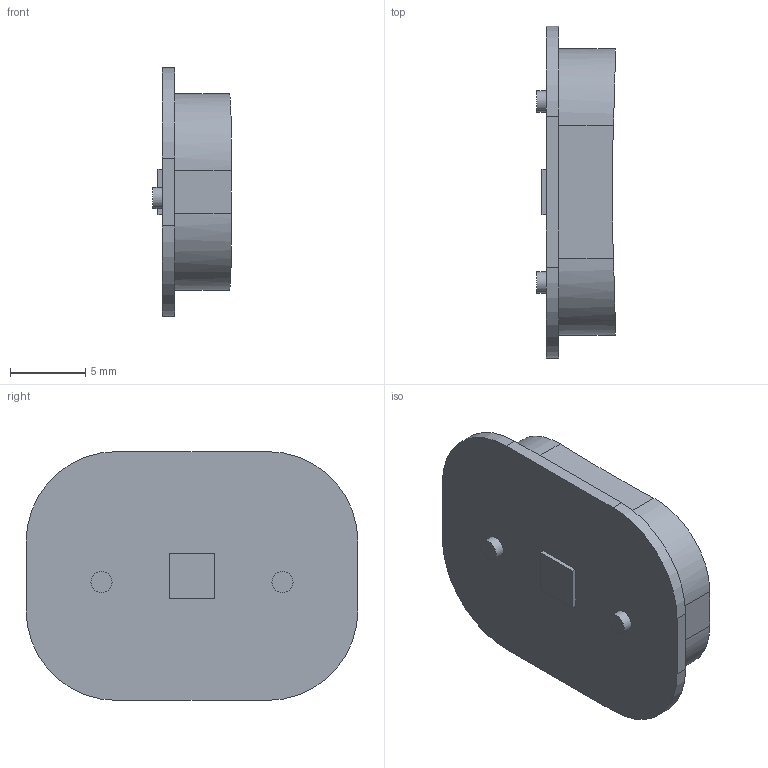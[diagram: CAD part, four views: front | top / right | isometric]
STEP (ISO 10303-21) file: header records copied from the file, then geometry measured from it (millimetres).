
FILE_DESCRIPTION(('Open CASCADE Model'),'2;1');
FILE_NAME('Open CASCADE Shape Model','2026-09-06T11:38:36',('Author'),( 'Open CASCADE'),'Open CASCADE STEP processor 7.7','Open CASCADE 7.7' ,'Unknown');
FILE_SCHEMA(('AUTOMOTIVE_DESIGN { 1 0 10303 214 1 1 1 1 }'));
Length unit declared in the file: millimetre
Products named in the file (1): Open CASCADE STEP translator 7.7 6
Bounding box: 5.21 x 22 x 16.5 mm (x, y, z)
Volume: 1067.3 mm3; surface area: 931.4 mm2
Topology: 1 solids, 1 shells, 33 faces, 81 edges, 54 vertices
Faces by surface type: plane 22, cylinder 10, sphere 1
Full cylindrical faces by diameter (mm): 1.4 x2
Entity records: 2699 total; most frequent: CARTESIAN_POINT 1047, DIRECTION 310, LINE 168, VECTOR 168, ORIENTED_EDGE 162, PCURVE 162, DEFINITIONAL_REPRESENTATION 162, EDGE_CURVE 81
